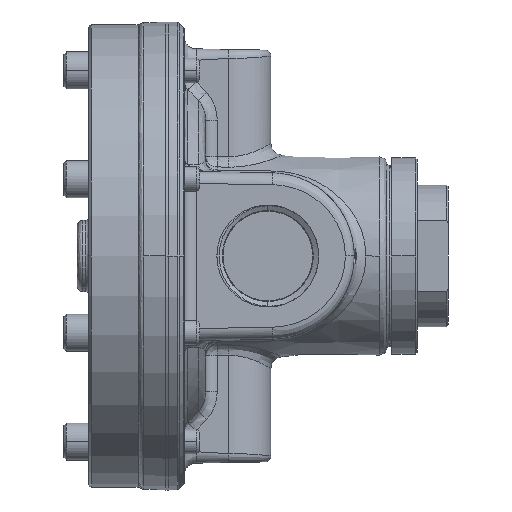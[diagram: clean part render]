
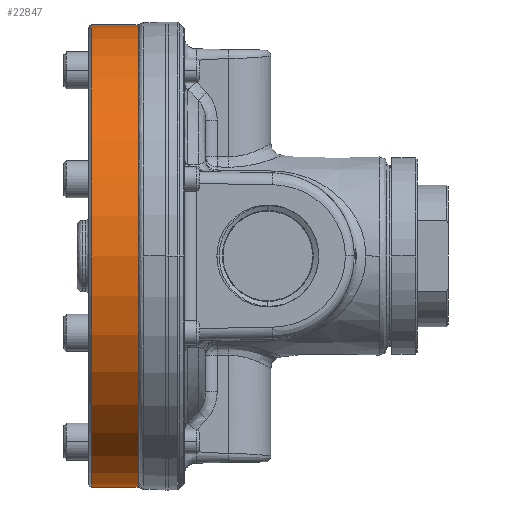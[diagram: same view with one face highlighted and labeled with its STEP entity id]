
A CAD part, left-side view. The second image highlights one B-rep face of the part: STEP entity #22847.
In plain terms, the highlighted cylindrical face has radius 59.373 mm (diameter 118.745 mm), a partial arc.
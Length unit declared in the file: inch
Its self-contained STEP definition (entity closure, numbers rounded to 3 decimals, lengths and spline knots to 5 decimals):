
#6419 = CARTESIAN_POINT ( 'NONE',  ( 0.00001, 0.3425, -2.3375 ) ) ;
#6421 = CARTESIAN_POINT ( 'NONE',  ( 0.00001, 0.8175, -2.3375 ) ) ;
#6425 = CARTESIAN_POINT ( 'NONE',  ( 0.00001, 0.3425, 2.3375 ) ) ;
#6434 = CARTESIAN_POINT ( 'NONE',  ( 0.00001, 0.8175, 2.3375 ) ) ;
#6439 = CARTESIAN_POINT ( 'NONE',  ( -2.33749, 0.8175, 0. ) ) ;
#8651 = VECTOR ( 'NONE', #16462, 39.37008 ) ;
#8694 = VECTOR ( 'NONE', #16369, 39.37008 ) ;
#8709 = CIRCLE ( 'NONE', #8710, 2.3375 ) ;
#8710 = AXIS2_PLACEMENT_3D ( 'NONE', #16317, #16318, #16319 ) ;
#9277 = CIRCLE ( 'NONE', #9280, 2.3375 ) ;
#9280 = AXIS2_PLACEMENT_3D ( 'NONE', #22316, #22317, #22318 ) ;
#9379 = CIRCLE ( 'NONE', #9381, 2.3375 ) ;
#9381 = AXIS2_PLACEMENT_3D ( 'NONE', #20472, #20473, #20474 ) ;
#9930 = EDGE_CURVE ( 'NONE', #23429, #23424, #8709, .T. ) ;
#9962 = EDGE_CURVE ( 'NONE', #23411, #23409, #16364, .T. ) ;
#10018 = EDGE_CURVE ( 'NONE', #23424, #23415, #16460, .T. ) ;
#10508 = EDGE_CURVE ( 'NONE', #23409, #23415, #9277, .T. ) ;
#10598 = EDGE_CURVE ( 'NONE', #23411, #23429, #9379, .T. ) ;
#12395 = DIRECTION ( 'NONE',  ( 0., -1., 0. ) ) ;
#12401 = FACE_OUTER_BOUND ( 'NONE', #24621, .T. ) ;
#12402 = CARTESIAN_POINT ( 'NONE',  ( 0.00001, 0.9575, 0. ) ) ;
#12404 = CYLINDRICAL_SURFACE ( 'NONE', #14384, 2.3375 ) ;
#12405 = DIRECTION ( 'NONE',  ( 0., 0., -1. ) ) ;
#14384 = AXIS2_PLACEMENT_3D ( 'NONE', #12402, #12395, #12405 ) ;
#16317 = CARTESIAN_POINT ( 'NONE',  ( 0.00001, 0.8175, 0. ) ) ;
#16318 = DIRECTION ( 'NONE',  ( 0., 1., 0. ) ) ;
#16319 = DIRECTION ( 'NONE',  ( 0., 0., -1. ) ) ;
#16362 = CARTESIAN_POINT ( 'NONE',  ( 0.00001, 0.9575, -2.3375 ) ) ;
#16364 = LINE ( 'NONE', #16362, #8694 ) ;
#16369 = DIRECTION ( 'NONE',  ( 0., -1., 0. ) ) ;
#16460 = LINE ( 'NONE', #16461, #8651 ) ;
#16461 = CARTESIAN_POINT ( 'NONE',  ( 0.00001, 0.9575, 2.3375 ) ) ;
#16462 = DIRECTION ( 'NONE',  ( 0., -1., 0. ) ) ;
#19469 = ORIENTED_EDGE ( 'NONE', *, *, #10018, .F. ) ;
#19474 = ORIENTED_EDGE ( 'NONE', *, *, #9930, .F. ) ;
#19481 = ORIENTED_EDGE ( 'NONE', *, *, #10598, .F. ) ;
#19488 = ORIENTED_EDGE ( 'NONE', *, *, #9962, .T. ) ;
#19522 = ORIENTED_EDGE ( 'NONE', *, *, #10508, .T. ) ;
#20472 = CARTESIAN_POINT ( 'NONE',  ( 0.00001, 0.8175, 0. ) ) ;
#20473 = DIRECTION ( 'NONE',  ( 0., 1., 0. ) ) ;
#20474 = DIRECTION ( 'NONE',  ( 0., 0., -1. ) ) ;
#22316 = CARTESIAN_POINT ( 'NONE',  ( 0.00001, 0.3425, 0. ) ) ;
#22317 = DIRECTION ( 'NONE',  ( 0., 1., 0. ) ) ;
#22318 = DIRECTION ( 'NONE',  ( 0., 0., -1. ) ) ;
#22847 = ADVANCED_FACE ( 'NONE', ( #12401 ), #12404, .T. ) ;
#23409 = VERTEX_POINT ( 'NONE', #6419 ) ;
#23411 = VERTEX_POINT ( 'NONE', #6421 ) ;
#23415 = VERTEX_POINT ( 'NONE', #6425 ) ;
#23424 = VERTEX_POINT ( 'NONE', #6434 ) ;
#23429 = VERTEX_POINT ( 'NONE', #6439 ) ;
#24621 = EDGE_LOOP ( 'NONE', ( #19469, #19474, #19481, #19488, #19522 ) ) ;
